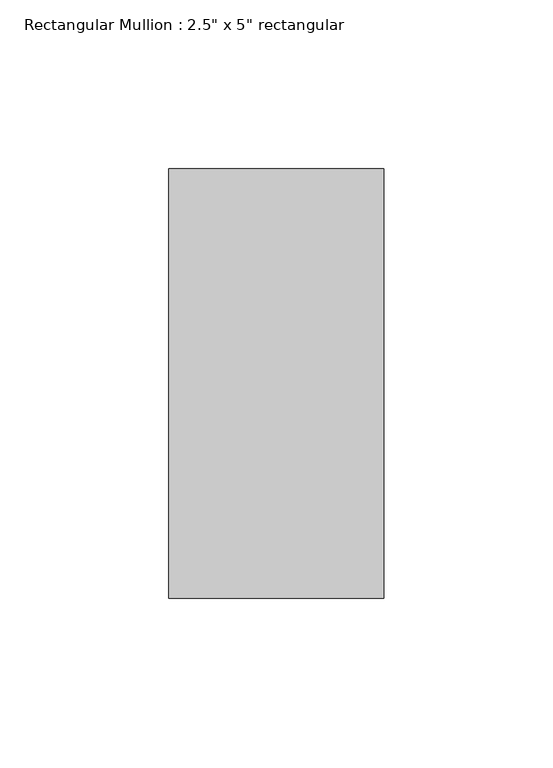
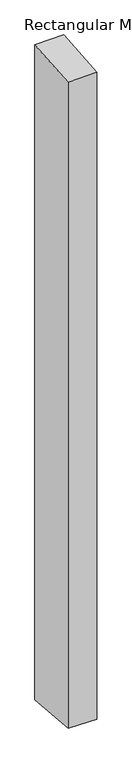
"""IFC4 building model written with IfcOpenShell, lengths in millimetres: member geometry."""

from ifc_helpers import new_model, si_unit, origin, place, context, project, spatial, faceted_brep, source, transform, mapped, element, save


def member_3d04d663(model_context):
    return source(origin(), model_context, "Body", "Brep", [
        faceted_brep([(-63.5, 63.5, 4.1790986), (0.0, 63.5, 5.2092544), (0.0, 63.5, -1529.2092544), (-63.5, 63.5, -1528.1790986), (-63.5, -63.5, -6.2394102), (-63.5, -63.5, -1517.7605898), (0.0, -63.5, -5.2092544), (0.0, -63.5, -1518.7907456)], [[[0, 1, 2, 3]], [[4, 0, 3, 5]], [[6, 4, 5, 7]], [[1, 6, 7, 2]], [[1, 0, 4, 6]], [[2, 7, 5, 3]]]),
    ])


if __name__ == "__main__":
    model = new_model("IFC4")
    model_context = context("Model", 3, world=origin())
    ifc_project = project(units=[si_unit("LENGTHUNIT", "METRE", prefix="MILLI")], contexts=[model_context])
    site = spatial("IfcSite", under=ifc_project)
    building = spatial("IfcBuilding", under=site)
    placement = place(None, origin())
    member_shape = member_3d04d663(model_context)
    element("IfcMember", 1, ObjectType="Rectangular Mullion : 2.5\" x 5\" rectangular", at=placement, inside=building, context=model_context, shape_type="MappedRepresentation", body=[
        mapped(member_shape, transform((0.0, 0.0, 0.0), x_axis=(1.0, 0.0, 0.0), y_axis=(0.0, 1.0, 0.0), z_axis=(0.0, 0.0, 1.0))),
    ])
    save(model, "model.ifc")
